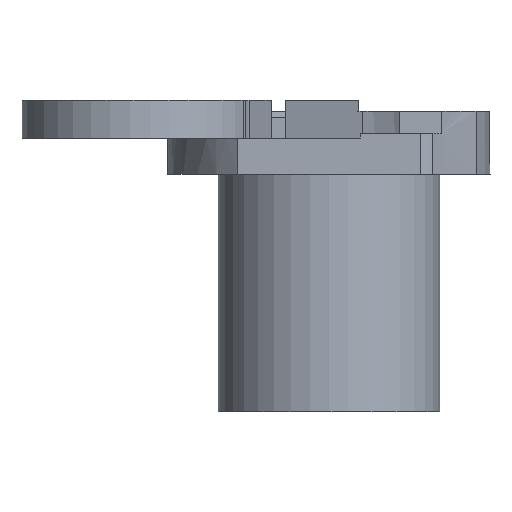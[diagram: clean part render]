
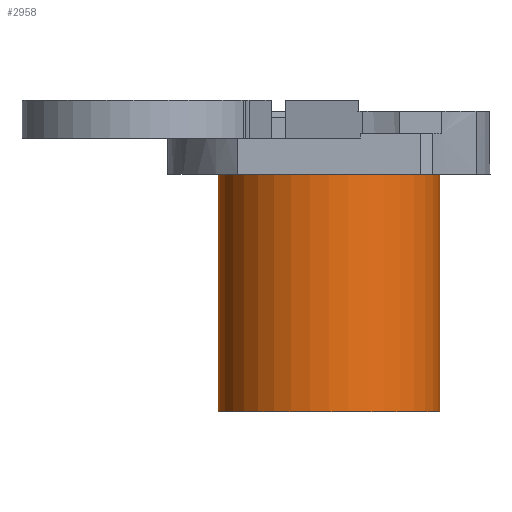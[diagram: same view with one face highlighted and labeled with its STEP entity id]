
A CAD part, left-side view. The second image highlights one B-rep face of the part: STEP entity #2958.
In plain terms, the highlighted cylindrical face has radius 3.5 mm (diameter 7 mm), a full revolution.
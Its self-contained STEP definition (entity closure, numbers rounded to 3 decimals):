
#1030 = PLANE('',#1031);
#1031 = AXIS2_PLACEMENT_3D('',#1032,#1033,#1034);
#1032 = CARTESIAN_POINT('',(14.4,-19.,8.85));
#1033 = DIRECTION('',(0.,0.,1.));
#1034 = DIRECTION('',(1.,0.,-0.));
#2520 = EDGE_CURVE('',#2521,#2521,#2523,.T.);
#2521 = VERTEX_POINT('',#2522);
#2522 = CARTESIAN_POINT('',(17.5,-19.,8.85));
#2523 = SURFACE_CURVE('',#2524,(#2529,#2540),.PCURVE_S1.);
#2524 = CIRCLE('',#2525,3.5);
#2525 = AXIS2_PLACEMENT_3D('',#2526,#2527,#2528);
#2526 = CARTESIAN_POINT('',(14.,-19.,8.85));
#2527 = DIRECTION('',(0.,0.,-1.));
#2528 = DIRECTION('',(1.,0.,0.));
#2529 = PCURVE('',#1030,#2530);
#2530 = DEFINITIONAL_REPRESENTATION('',(#2531),#2539);
#2531 = ( BOUNDED_CURVE() B_SPLINE_CURVE(2,(#2532,#2533,#2534,#2535,
#2536,#2537,#2538),.UNSPECIFIED.,.T.,.F.) B_SPLINE_CURVE_WITH_KNOTS((1,2
    ,2,2,2,1),(-2.094,0.,2.094,4.189,
6.283,8.378),.UNSPECIFIED.) CURVE() 
GEOMETRIC_REPRESENTATION_ITEM() RATIONAL_B_SPLINE_CURVE((1.,0.5,1.,0.5,
1.,0.5,1.)) REPRESENTATION_ITEM('') );
#2532 = CARTESIAN_POINT('',(3.1,0.));
#2533 = CARTESIAN_POINT('',(3.1,-6.062));
#2534 = CARTESIAN_POINT('',(-2.15,-3.031));
#2535 = CARTESIAN_POINT('',(-7.4,0.));
#2536 = CARTESIAN_POINT('',(-2.15,3.031));
#2537 = CARTESIAN_POINT('',(3.1,6.062));
#2538 = CARTESIAN_POINT('',(3.1,0.));
#2539 = ( GEOMETRIC_REPRESENTATION_CONTEXT(2) 
PARAMETRIC_REPRESENTATION_CONTEXT() REPRESENTATION_CONTEXT('2D SPACE',''
  ) );
#2540 = PCURVE('',#2541,#2546);
#2541 = CYLINDRICAL_SURFACE('',#2542,3.5);
#2542 = AXIS2_PLACEMENT_3D('',#2543,#2544,#2545);
#2543 = CARTESIAN_POINT('',(14.,-19.,2.1));
#2544 = DIRECTION('',(-0.,-0.,-1.));
#2545 = DIRECTION('',(1.,0.,0.));
#2546 = DEFINITIONAL_REPRESENTATION('',(#2547),#2551);
#2547 = LINE('',#2548,#2549);
#2548 = CARTESIAN_POINT('',(0.,-6.75));
#2549 = VECTOR('',#2550,1.);
#2550 = DIRECTION('',(1.,0.));
#2551 = ( GEOMETRIC_REPRESENTATION_CONTEXT(2) 
PARAMETRIC_REPRESENTATION_CONTEXT() REPRESENTATION_CONTEXT('2D SPACE',''
  ) );
#2958 = ADVANCED_FACE('',(#2959),#2541,.T.);
#2959 = FACE_BOUND('',#2960,.T.);
#2960 = EDGE_LOOP('',(#2961,#2962,#2985,#3012));
#2961 = ORIENTED_EDGE('',*,*,#2520,.T.);
#2962 = ORIENTED_EDGE('',*,*,#2963,.T.);
#2963 = EDGE_CURVE('',#2521,#2964,#2966,.T.);
#2964 = VERTEX_POINT('',#2965);
#2965 = CARTESIAN_POINT('',(17.5,-19.,1.35));
#2966 = SEAM_CURVE('',#2967,(#2971,#2978),.PCURVE_S1.);
#2967 = LINE('',#2968,#2969);
#2968 = CARTESIAN_POINT('',(17.5,-19.,11.2));
#2969 = VECTOR('',#2970,1.);
#2970 = DIRECTION('',(0.,0.,-1.));
#2971 = PCURVE('',#2541,#2972);
#2972 = DEFINITIONAL_REPRESENTATION('',(#2973),#2977);
#2973 = LINE('',#2974,#2975);
#2974 = CARTESIAN_POINT('',(0.,-9.1));
#2975 = VECTOR('',#2976,1.);
#2976 = DIRECTION('',(0.,1.));
#2977 = ( GEOMETRIC_REPRESENTATION_CONTEXT(2) 
PARAMETRIC_REPRESENTATION_CONTEXT() REPRESENTATION_CONTEXT('2D SPACE',''
  ) );
#2978 = PCURVE('',#2541,#2979);
#2979 = DEFINITIONAL_REPRESENTATION('',(#2980),#2984);
#2980 = LINE('',#2981,#2982);
#2981 = CARTESIAN_POINT('',(6.283,-9.1));
#2982 = VECTOR('',#2983,1.);
#2983 = DIRECTION('',(0.,1.));
#2984 = ( GEOMETRIC_REPRESENTATION_CONTEXT(2) 
PARAMETRIC_REPRESENTATION_CONTEXT() REPRESENTATION_CONTEXT('2D SPACE',''
  ) );
#2985 = ORIENTED_EDGE('',*,*,#2986,.T.);
#2986 = EDGE_CURVE('',#2964,#2964,#2987,.T.);
#2987 = SURFACE_CURVE('',#2988,(#2993,#3000),.PCURVE_S1.);
#2988 = CIRCLE('',#2989,3.5);
#2989 = AXIS2_PLACEMENT_3D('',#2990,#2991,#2992);
#2990 = CARTESIAN_POINT('',(14.,-19.,1.35));
#2991 = DIRECTION('',(0.,0.,1.));
#2992 = DIRECTION('',(1.,0.,-0.));
#2993 = PCURVE('',#2541,#2994);
#2994 = DEFINITIONAL_REPRESENTATION('',(#2995),#2999);
#2995 = LINE('',#2996,#2997);
#2996 = CARTESIAN_POINT('',(6.283,0.75));
#2997 = VECTOR('',#2998,1.);
#2998 = DIRECTION('',(-1.,0.));
#2999 = ( GEOMETRIC_REPRESENTATION_CONTEXT(2) 
PARAMETRIC_REPRESENTATION_CONTEXT() REPRESENTATION_CONTEXT('2D SPACE',''
  ) );
#3000 = PCURVE('',#3001,#3006);
#3001 = PLANE('',#3002);
#3002 = AXIS2_PLACEMENT_3D('',#3003,#3004,#3005);
#3003 = CARTESIAN_POINT('',(14.,-19.,1.35));
#3004 = DIRECTION('',(0.,0.,1.));
#3005 = DIRECTION('',(1.,0.,-0.));
#3006 = DEFINITIONAL_REPRESENTATION('',(#3007),#3011);
#3007 = CIRCLE('',#3008,3.5);
#3008 = AXIS2_PLACEMENT_2D('',#3009,#3010);
#3009 = CARTESIAN_POINT('',(0.,0.));
#3010 = DIRECTION('',(1.,0.));
#3011 = ( GEOMETRIC_REPRESENTATION_CONTEXT(2) 
PARAMETRIC_REPRESENTATION_CONTEXT() REPRESENTATION_CONTEXT('2D SPACE',''
  ) );
#3012 = ORIENTED_EDGE('',*,*,#2963,.F.);
